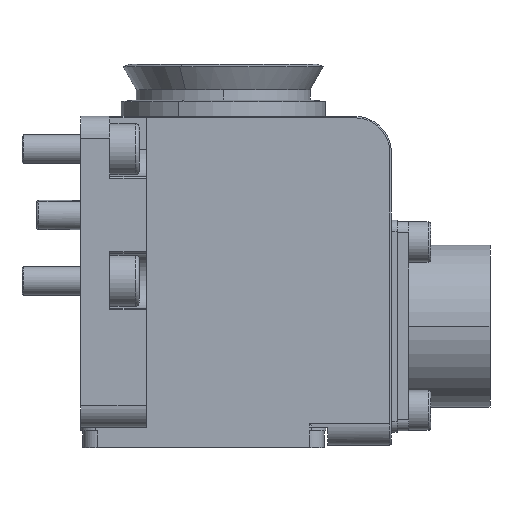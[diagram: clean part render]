
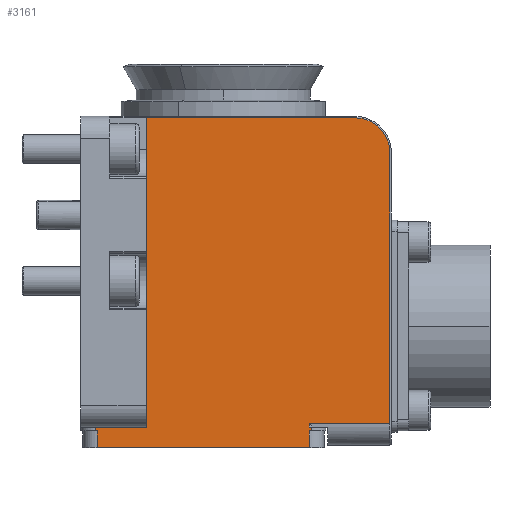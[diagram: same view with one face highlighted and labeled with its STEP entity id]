
A CAD part, left-side view. The second image highlights one B-rep face of the part: STEP entity #3161.
In plain terms, the highlighted planar face has unit normal (-1, 0, 0).
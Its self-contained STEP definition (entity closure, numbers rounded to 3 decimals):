
#413 = CARTESIAN_POINT ( 'NONE',  ( -20., -23., -49.1 ) ) ;
#607 = DIRECTION ( 'NONE',  ( 0., -1., 0. ) ) ;
#719 = DIRECTION ( 'NONE',  ( 0., 0., -1. ) ) ;
#1562 = DIRECTION ( 'NONE',  ( -1., 0., 0. ) ) ;
#2061 = CARTESIAN_POINT ( 'NONE',  ( -20., -18., -7.3 ) ) ;
#2246 = ORIENTED_EDGE ( 'NONE', *, *, #21901, .T. ) ;
#2308 = CARTESIAN_POINT ( 'NONE',  ( -20., 17.45, -49.6 ) ) ;
#2394 = VECTOR ( 'NONE', #5109, 1000. ) ;
#2434 = VECTOR ( 'NONE', #14172, 1000. ) ;
#2515 = ORIENTED_EDGE ( 'NONE', *, *, #5555, .T. ) ;
#2947 = CARTESIAN_POINT ( 'NONE',  ( -20., 17.45, -50.1 ) ) ;
#3092 = ORIENTED_EDGE ( 'NONE', *, *, #20340, .T. ) ;
#3112 = ORIENTED_EDGE ( 'NONE', *, *, #29932, .T. ) ;
#3161 = ADVANCED_FACE ( 'NONE', ( #34475 ), #25595, .T. ) ;
#3306 = CARTESIAN_POINT ( 'NONE',  ( -20., 19.45, -50.1 ) ) ;
#3590 = LINE ( 'NONE', #24651, #13706 ) ;
#3607 = CARTESIAN_POINT ( 'NONE',  ( -20., -11.8, -39.9 ) ) ;
#3701 = VERTEX_POINT ( 'NONE', #2308 ) ;
#4232 = EDGE_CURVE ( 'NONE', #3701, #35691, #10275, .T. ) ;
#4625 = VECTOR ( 'NONE', #28224, 1000. ) ;
#4716 = CARTESIAN_POINT ( 'NONE',  ( -20., -22.8, -12.1 ) ) ;
#5109 = DIRECTION ( 'NONE',  ( 0., 0., 1. ) ) ;
#5555 = EDGE_CURVE ( 'NONE', #7246, #35610, #37314, .T. ) ;
#6597 = VECTOR ( 'NONE', #607, 1000. ) ;
#6647 = VECTOR ( 'NONE', #24632, 1000. ) ;
#6749 = DIRECTION ( 'NONE',  ( 0., -1., 0. ) ) ;
#6895 = CARTESIAN_POINT ( 'NONE',  ( -20., -12.05, -50.1 ) ) ;
#7246 = VERTEX_POINT ( 'NONE', #2947 ) ;
#7281 = LINE ( 'NONE', #6895, #35613 ) ;
#7430 = CARTESIAN_POINT ( 'NONE',  ( -20., 10.5, -7.3 ) ) ;
#7526 = CARTESIAN_POINT ( 'NONE',  ( -20., -11.8, -52.4 ) ) ;
#8309 = CARTESIAN_POINT ( 'NONE',  ( -20., -22.8, -52.1 ) ) ;
#9054 = EDGE_CURVE ( 'NONE', #19530, #18837, #32969, .T. ) ;
#9137 = DIRECTION ( 'NONE',  ( 0., 0., -1. ) ) ;
#9202 = EDGE_LOOP ( 'NONE', ( #29197, #30075, #14208, #2515, #3092, #37441, #18557, #19629, #2246, #12526, #12767, #3112, #18471, #16080, #16698 ) ) ;
#9261 = EDGE_CURVE ( 'NONE', #37413, #34723, #35102, .T. ) ;
#9334 = CARTESIAN_POINT ( 'NONE',  ( -20., 10.5, -7.3 ) ) ;
#9660 = CARTESIAN_POINT ( 'NONE',  ( -20., -11.8, -49.1 ) ) ;
#9689 = VERTEX_POINT ( 'NONE', #20485 ) ;
#10275 = LINE ( 'NONE', #37062, #6597 ) ;
#10667 = DIRECTION ( 'NONE',  ( 0., 0., 1. ) ) ;
#10703 = CARTESIAN_POINT ( 'NONE',  ( -20., 19.45, -50.1 ) ) ;
#11390 = LINE ( 'NONE', #14544, #2394 ) ;
#12526 = ORIENTED_EDGE ( 'NONE', *, *, #17933, .F. ) ;
#12767 = ORIENTED_EDGE ( 'NONE', *, *, #9054, .F. ) ;
#13706 = VECTOR ( 'NONE', #6749, 1000. ) ;
#13726 = AXIS2_PLACEMENT_3D ( 'NONE', #31299, #1562, #25569 ) ;
#13949 = CARTESIAN_POINT ( 'NONE',  ( -20., -12.05, -49.6 ) ) ;
#13971 = VECTOR ( 'NONE', #10667, 1000. ) ;
#14151 = CARTESIAN_POINT ( 'NONE',  ( -20., 17.2, -52.4 ) ) ;
#14172 = DIRECTION ( 'NONE',  ( 0., 0., 1. ) ) ;
#14208 = ORIENTED_EDGE ( 'NONE', *, *, #32562, .T. ) ;
#14544 = CARTESIAN_POINT ( 'NONE',  ( -20., 10.5, -52.1 ) ) ;
#15133 = CARTESIAN_POINT ( 'NONE',  ( -20., 17.45, -50.1 ) ) ;
#15643 = CARTESIAN_POINT ( 'NONE',  ( -20., -22.8, -49.1 ) ) ;
#15701 = VERTEX_POINT ( 'NONE', #2061 ) ;
#15904 = LINE ( 'NONE', #15133, #21280 ) ;
#16080 = ORIENTED_EDGE ( 'NONE', *, *, #32388, .T. ) ;
#16698 = ORIENTED_EDGE ( 'NONE', *, *, #22261, .T. ) ;
#17933 = EDGE_CURVE ( 'NONE', #18837, #25904, #3590, .T. ) ;
#18471 = ORIENTED_EDGE ( 'NONE', *, *, #33636, .T. ) ;
#18557 = ORIENTED_EDGE ( 'NONE', *, *, #18721, .T. ) ;
#18721 = EDGE_CURVE ( 'NONE', #34723, #9689, #38594, .T. ) ;
#18837 = VERTEX_POINT ( 'NONE', #23799 ) ;
#19495 = DIRECTION ( 'NONE',  ( 0., 0., 1. ) ) ;
#19530 = VERTEX_POINT ( 'NONE', #9660 ) ;
#19629 = ORIENTED_EDGE ( 'NONE', *, *, #22090, .T. ) ;
#19901 = DIRECTION ( 'NONE',  ( 0., -1., 0. ) ) ;
#20109 = VECTOR ( 'NONE', #28997, 1000. ) ;
#20340 = EDGE_CURVE ( 'NONE', #35610, #37413, #28434, .T. ) ;
#20485 = CARTESIAN_POINT ( 'NONE',  ( -20., -11.8, -50.1 ) ) ;
#20549 = VERTEX_POINT ( 'NONE', #36063 ) ;
#21280 = VECTOR ( 'NONE', #719, 1000. ) ;
#21424 = DIRECTION ( 'NONE',  ( 0., -1., 0. ) ) ;
#21901 = EDGE_CURVE ( 'NONE', #20549, #25904, #7281, .T. ) ;
#22001 = DIRECTION ( 'NONE',  ( 0., 1., 0. ) ) ;
#22090 = EDGE_CURVE ( 'NONE', #9689, #20549, #32861, .T. ) ;
#22261 = EDGE_CURVE ( 'NONE', #15701, #28422, #22395, .T. ) ;
#22395 = LINE ( 'NONE', #7430, #33736 ) ;
#23799 = CARTESIAN_POINT ( 'NONE',  ( -20., -11.8, -49.6 ) ) ;
#24632 = DIRECTION ( 'NONE',  ( 0., -1., 0. ) ) ;
#24651 = CARTESIAN_POINT ( 'NONE',  ( -20., 19.45, -49.6 ) ) ;
#25545 = VECTOR ( 'NONE', #21424, 1000. ) ;
#25569 = DIRECTION ( 'NONE',  ( 0., -1., 0. ) ) ;
#25595 = PLANE ( 'NONE',  #36642 ) ;
#25782 = CARTESIAN_POINT ( 'NONE',  ( -20., 10.5, -52.1 ) ) ;
#25904 = VERTEX_POINT ( 'NONE', #13949 ) ;
#28224 = DIRECTION ( 'NONE',  ( 0., -1., 0. ) ) ;
#28422 = VERTEX_POINT ( 'NONE', #9334 ) ;
#28434 = LINE ( 'NONE', #30996, #33985 ) ;
#28997 = DIRECTION ( 'NONE',  ( 0., -1., 0. ) ) ;
#29197 = ORIENTED_EDGE ( 'NONE', *, *, #31779, .F. ) ;
#29932 = EDGE_CURVE ( 'NONE', #19530, #36264, #36282, .T. ) ;
#29998 = CIRCLE ( 'NONE', #13726, 4.8 ) ;
#30075 = ORIENTED_EDGE ( 'NONE', *, *, #4232, .F. ) ;
#30996 = CARTESIAN_POINT ( 'NONE',  ( -20., 17.2, -52.4 ) ) ;
#31299 = CARTESIAN_POINT ( 'NONE',  ( -20., -18., -12.1 ) ) ;
#31708 = VERTEX_POINT ( 'NONE', #4716 ) ;
#31779 = EDGE_CURVE ( 'NONE', #35691, #28422, #11390, .T. ) ;
#31916 = DIRECTION ( 'NONE',  ( -1., 0., 0. ) ) ;
#32388 = EDGE_CURVE ( 'NONE', #31708, #15701, #29998, .T. ) ;
#32562 = EDGE_CURVE ( 'NONE', #3701, #7246, #15904, .T. ) ;
#32861 = LINE ( 'NONE', #3306, #25545 ) ;
#32969 = LINE ( 'NONE', #3607, #35104 ) ;
#33378 = CARTESIAN_POINT ( 'NONE',  ( -20., 17.2, -50.1 ) ) ;
#33568 = CARTESIAN_POINT ( 'NONE',  ( -20., 10.5, -49.6 ) ) ;
#33636 = EDGE_CURVE ( 'NONE', #36264, #31708, #35282, .T. ) ;
#33736 = VECTOR ( 'NONE', #22001, 1000. ) ;
#33985 = VECTOR ( 'NONE', #36917, 1000. ) ;
#34475 = FACE_OUTER_BOUND ( 'NONE', #9202, .T. ) ;
#34723 = VERTEX_POINT ( 'NONE', #7526 ) ;
#35102 = LINE ( 'NONE', #35500, #20109 ) ;
#35104 = VECTOR ( 'NONE', #9137, 1000. ) ;
#35282 = LINE ( 'NONE', #8309, #13971 ) ;
#35500 = CARTESIAN_POINT ( 'NONE',  ( -20., 19.2, -52.4 ) ) ;
#35610 = VERTEX_POINT ( 'NONE', #33378 ) ;
#35613 = VECTOR ( 'NONE', #19495, 1000. ) ;
#35691 = VERTEX_POINT ( 'NONE', #33568 ) ;
#36063 = CARTESIAN_POINT ( 'NONE',  ( -20., -12.05, -50.1 ) ) ;
#36264 = VERTEX_POINT ( 'NONE', #15643 ) ;
#36282 = LINE ( 'NONE', #413, #6647 ) ;
#36642 = AXIS2_PLACEMENT_3D ( 'NONE', #25782, #31916, #19901 ) ;
#36917 = DIRECTION ( 'NONE',  ( 0., 0., -1. ) ) ;
#37062 = CARTESIAN_POINT ( 'NONE',  ( -20., 19.45, -49.6 ) ) ;
#37314 = LINE ( 'NONE', #10703, #4625 ) ;
#37413 = VERTEX_POINT ( 'NONE', #14151 ) ;
#37441 = ORIENTED_EDGE ( 'NONE', *, *, #9261, .T. ) ;
#38200 = CARTESIAN_POINT ( 'NONE',  ( -20., -11.8, -50.1 ) ) ;
#38594 = LINE ( 'NONE', #38200, #2434 ) ;
